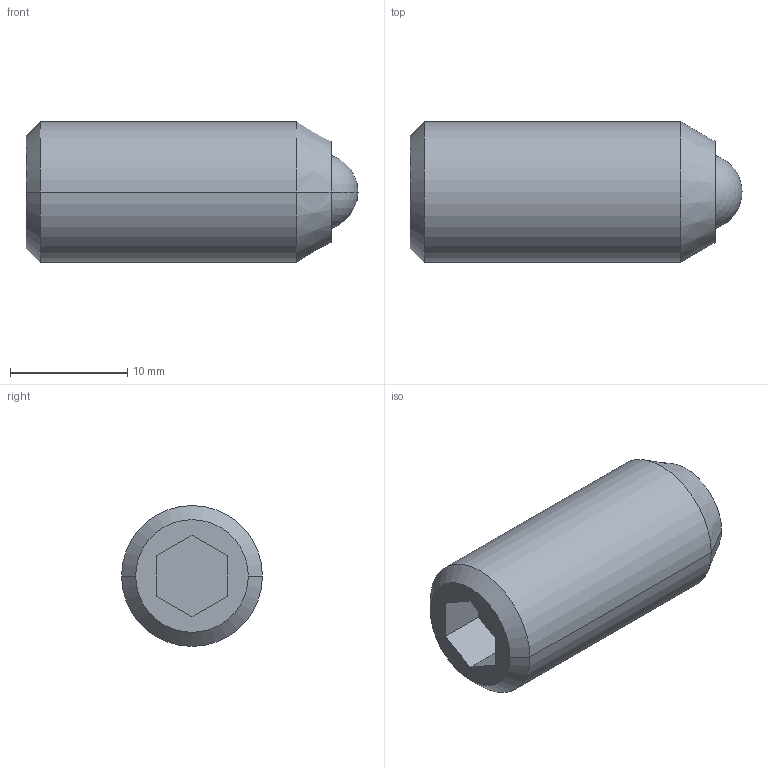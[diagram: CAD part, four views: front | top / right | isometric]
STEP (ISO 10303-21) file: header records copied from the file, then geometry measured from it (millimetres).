
FILE_DESCRIPTION (( 'STEP AP214' ), '1' );
FILE_NAME ('615.9-M12-KSN.step', '2022-12-09T10:30:57', ( '' ), ( '' ), 'SwSTEP 2.0', 'SolidWorks 2022', '' );
FILE_SCHEMA (( 'AUTOMOTIVE_DESIGN' ));
Length unit declared in the file: millimetre
Products named in the file (1): 615.9-M12-KSN
Bounding box: 28.3 x 12 x 12 mm (x, y, z)
Volume: 2746.3 mm3; surface area: 1222.3 mm2
Topology: 1 solids, 1 shells, 23 faces, 48 edges, 31 vertices
Faces by surface type: plane 11, cylinder 6, cone 4, sphere 2
Entity records: 685 total; most frequent: DIRECTION 116, CARTESIAN_POINT 103, ORIENTED_EDGE 96, EDGE_CURVE 48, AXIS2_PLACEMENT_3D 44, VERTEX_POINT 31, VECTOR 28, LINE 28
